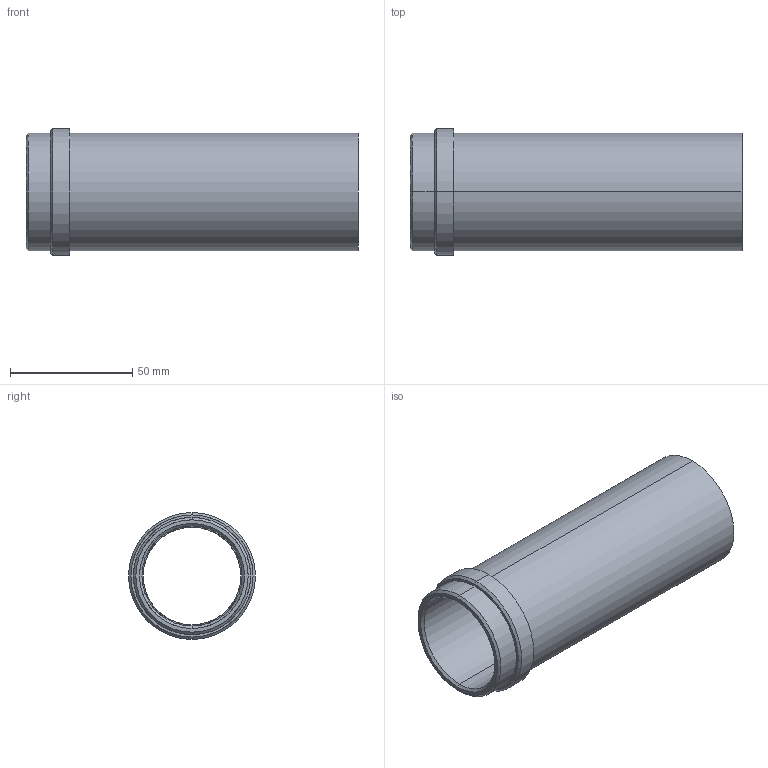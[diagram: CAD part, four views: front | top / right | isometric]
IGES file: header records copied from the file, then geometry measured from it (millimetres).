
Start section: START RECORD GO HERE.
Global section: file name: 358-40x136.igs; native system: DASSAULT SYSTEMES CATIA V5 R20 - www.3ds.com; preprocessor: CATIA Version 5 Release 20 ; author: Utente; organization: NB04-ASUS; date: 20210409.165645; units: millimetre
Bounding box: 136 x 52 x 52 mm (x, y, z)
Surface area: 39242.3 mm2 (no closed solid volume)
Topology: 0 solids, 0 shells, 23 faces, 148 edges, 148 vertices
Faces by surface type: revolution 18, plane 5
